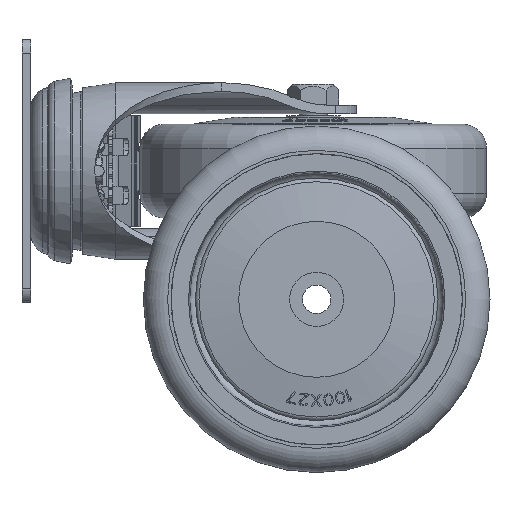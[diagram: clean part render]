
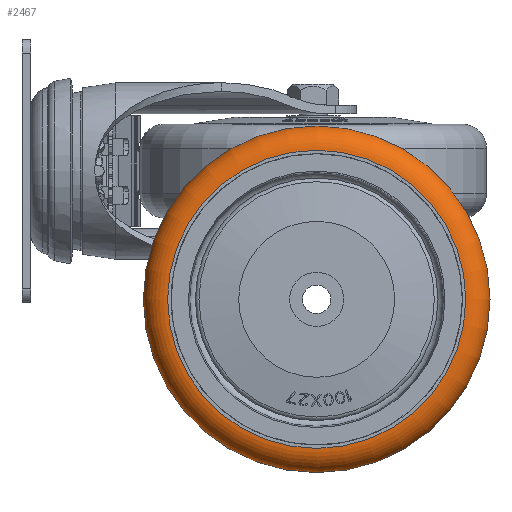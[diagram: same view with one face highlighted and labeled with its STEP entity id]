
A CAD part, left-side view. The second image highlights one B-rep face of the part: STEP entity #2467.
In plain terms, the highlighted toroidal (fillet/blend) face has major radius 43 mm and minor radius 7 mm.
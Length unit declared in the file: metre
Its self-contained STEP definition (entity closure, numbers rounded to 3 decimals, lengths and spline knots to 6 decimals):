
#2467=ADVANCED_FACE('',(#6232,#6233),#6234,.T.);
#6232=FACE_OUTER_BOUND('',#13573,.T.);
#6233=FACE_OUTER_BOUND('',#13574,.T.);
#6234=TOROIDAL_SURFACE('',#13575,0.043,0.007);
#13573=EDGE_LOOP('',(#28252));
#13574=EDGE_LOOP('',(#28253));
#13575=AXIS2_PLACEMENT_3D('',#28254,#28255,#28256);
#28252=ORIENTED_EDGE('',*,*,#34358,.F.);
#28253=ORIENTED_EDGE('',*,*,#34413,.F.);
#28254=CARTESIAN_POINT('',(0.0,0.0,0.0065));
#28255=DIRECTION('',(0.0,0.0,-1.0));
#28256=DIRECTION('',(1.0,0.0,0.0));
#34358=EDGE_CURVE('',#42472,#42472,#42473,.T.);
#34413=EDGE_CURVE('',#42556,#42556,#42557,.T.);
#42472=VERTEX_POINT('',#61537);
#42473=CIRCLE('',#61538,0.043);
#42556=VERTEX_POINT('',#61868);
#42557=CIRCLE('',#61869,0.05);
#61537=CARTESIAN_POINT('',(-0.043,0.0,0.0135));
#61538=AXIS2_PLACEMENT_3D('',#69501,#69502,#69503);
#61868=CARTESIAN_POINT('',(-0.05,0.0,0.0065));
#61869=AXIS2_PLACEMENT_3D('',#69542,#69543,#69544);
#69501=CARTESIAN_POINT('',(0.0,0.0,0.0135));
#69502=DIRECTION('',(0.0,0.0,1.0));
#69503=DIRECTION('',(-1.0,0.0,0.0));
#69542=CARTESIAN_POINT('',(0.0,0.0,0.0065));
#69543=DIRECTION('',(0.0,0.0,-1.0));
#69544=DIRECTION('',(-1.0,0.0,0.0));
